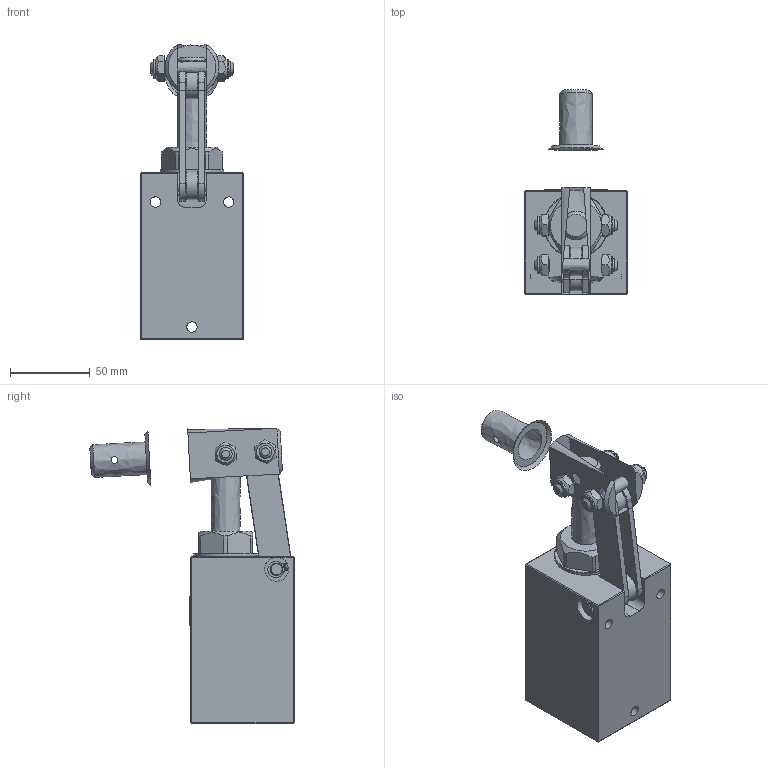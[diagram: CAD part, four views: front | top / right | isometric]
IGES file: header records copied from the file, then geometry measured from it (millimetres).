
Global section: file name: No Iges File Name specified; native system: Autodesk Inventor 2013; preprocessor: AutoDesk Inventor Iges Exporter R2013; author: christian.scardovi; date: 20240329.120149; units: millimetre
Bounding box: 65 x 128.32 x 185.67 mm (x, y, z)
Volume: 58342 mm3; surface area: 61953.5 mm2
Topology: 4 solids, 5 shells, 779 faces, 2019 edges, 1322 vertices
Faces by surface type: bspline 779
